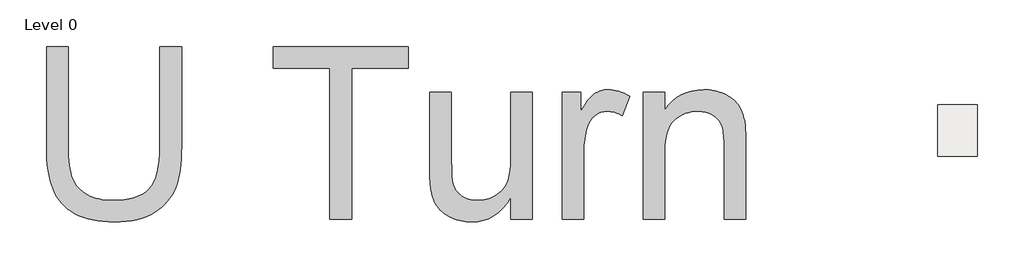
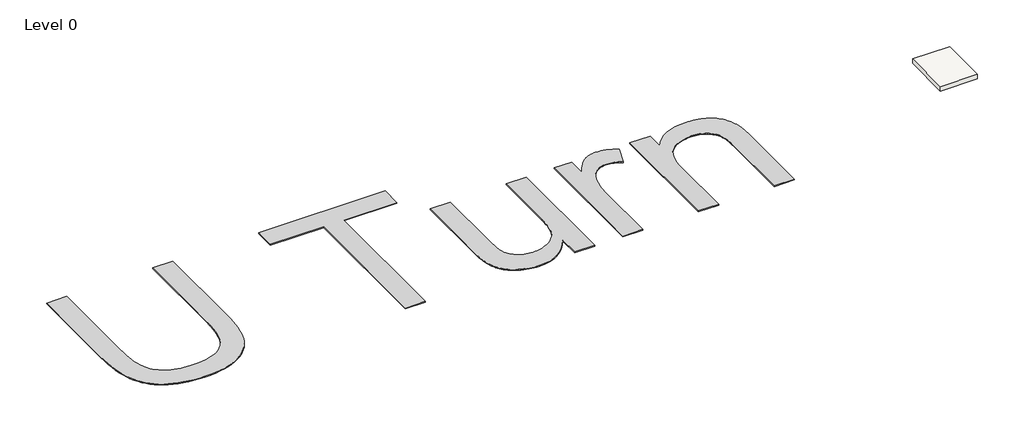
# One storey, incomplete: 1 proxy, 1 slab.
"""IFC4 building model written with IfcOpenShell, lengths in millimetres."""

from ifc_helpers import new_model, si_unit, frame, origin, origin_with_axes, place, context, project, spatial, polyline, outline, extrude, element, save

model = new_model("IFC4")

# Units and contexts
model_context = context("Model", 3, world=origin())
ifc_project = project(units=[si_unit("LENGTHUNIT", "METRE", prefix="MILLI")], contexts=[model_context])

# Site, building, storey
site = spatial("IfcSite", under=ifc_project)
building = spatial("IfcBuilding", under=site)
storey = spatial("IfcBuildingStorey", under=building, Name="Level 0", Elevation=0.0)

# Proxy
placement = place(None, origin())
element("IfcBuildingElementProxy", 1, Name="10 mm", ObjectType="10 mm", at=placement, inside=storey, context=model_context, shape_type="SweptSolid", body=[
    extrude(outline(polyline([(-150288.8911998, 80756.0577544), (-149033.187323, 80756.0577544), (-149033.187323, 74960.690057), (-149038.5139477, 74592.1374436), (-149054.4938219, 74243.0902402), (-149081.1269455, 73913.5484467), (-149118.4133185, 73603.5120631), (-149166.352941, 73312.9810896), (-149224.945813, 73041.9555259), (-149294.1919343, 72790.4353722), (-149374.0913052, 72558.4206285), (-149467.8628929, 72341.3319303), (-149578.725665, 72134.5899132), (-149706.6796214, 71938.1945773), (-149851.7247622, 71752.1459224), (-150013.8610874, 71576.4439487), (-150193.0885969, 71411.0886561), (-150389.4072908, 71256.0800445), (-150602.8171691, 71111.4181142), (-150833.4331948, 70980.6475612), (-151081.3703311, 70867.3130819), (-151346.6285781, 70771.4146764), (-151629.2079356, 70692.9523446), (-151929.1084038, 70631.9260866), (-152246.3299825, 70588.3359023), (-152580.8726719, 70562.1817917), (-152932.7364719, 70553.4637548), (-153275.4607035, 70561.051321), (-153602.205061, 70583.8140194), (-153912.9695443, 70621.7518502), (-154207.7541535, 70674.8648132), (-154486.5588885, 70743.1529086), (-154749.3837493, 70826.6161362), (-154996.2287359, 70925.2544962), (-155227.0938484, 71039.0679884), (-155441.9982473, 71167.2710317), (-155640.961093, 71309.0780445), (-155823.9823856, 71464.4890269), (-155991.0621251, 71633.503979), (-156142.2003114, 71816.1229006), (-156277.3969447, 72012.3457919), (-156396.6520248, 72222.1726528), (-156499.9655518, 72445.6034833), (-156589.3493803, 72686.3554244), (-156666.815365, 72948.1456172), (-156732.3635059, 73230.9740615), (-156785.993803, 73534.8407574), (-156827.7062563, 73859.7457049), (-156857.5008658, 74205.688904), (-156875.3776315, 74572.6703547), (-156881.3365534, 74960.690057), (-156881.3365534, 80756.0577544), (-155625.6326765, 80756.0577544), (-155625.6326765, 75004.8358964), (-155621.7622514, 74690.5841984), (-155610.1509759, 74397.7539623), (-155590.7988501, 74126.3451883), (-155563.705874, 73876.3578762), (-155528.8720476, 73647.7920262), (-155486.2973709, 73440.6476382), (-155435.9818438, 73254.9247122), (-155377.9254665, 73090.6232482), (-155310.442113, 72941.4202744), (-155231.8456575, 72800.9928191), (-155142.1361002, 72669.3408822), (-155041.3134409, 72546.4644637), (-154929.3776796, 72432.3635636), (-154806.3288165, 72327.038182), (-154672.1668513, 72230.4883188), (-154526.8917843, 72142.713974), (-154371.8448517, 72064.53905), (-154208.3672901, 71996.7874492), (-154036.4590995, 71939.4591716), (-153856.1202797, 71892.5542172), (-153667.350831, 71856.0725861), (-153470.1507531, 71830.0142781), (-153264.5200463, 71814.3792933), (-153050.4587103, 71809.1676317), (-152691.0456652, 71819.4759917), (-152358.3807069, 71850.401072), (-152052.4638353, 71901.9428723), (-151773.2950504, 71974.1013928), (-151520.8743522, 72066.8766335), (-151295.2017408, 72180.2685943), (-151096.2772161, 72314.2772753), (-150924.1007782, 72468.9026764), (-150775.2235333, 72652.8436739), (-150646.1965877, 72874.7991444), (-150537.0199414, 73134.7690876), (-150447.6935944, 73432.7535037), (-150378.2175468, 73768.7523926), (-150328.5917985, 74142.7657544), (-150298.8163495, 74554.793589), (-150288.8911998, 75004.8358964), (-150288.8911998, 80756.0577544)])), origin_with_axes(), (0.0, 0.0, 1.0), 50.0),
    extrude(outline(polyline([(-140400.2231695, 70710.4267394), (-140400.2231695, 79500.3538775), (-143696.4458463, 79500.3538775), (-143696.4458463, 80756.0577544), (-135848.2966158, 80756.0577544), (-135848.2966158, 79500.3538775), (-139144.5192926, 79500.3538775), (-139144.5192926, 70710.4267394), (-140400.2231695, 70710.4267394)])), origin_with_axes(), (0.0, 0.0, 1.0), 50.0),
    extrude(outline(polyline([(-129883.7032007, 70710.4267394), (-129883.7032007, 71978.3933495), (-130101.5199987, 71644.4254757), (-130338.0374648, 71354.9866518), (-130593.2555989, 71110.0768777), (-130867.1744011, 70909.6961535), (-131159.7938715, 70753.844479), (-131471.1140099, 70642.5218545), (-131801.1348164, 70575.7282797), (-132149.856291, 70553.4637548), (-132306.723473, 70557.372501), (-132460.9465032, 70569.0987396), (-132612.5253815, 70588.6424706), (-132761.460108, 70616.003694), (-132907.7506826, 70651.1824098), (-133051.3971054, 70694.178618), (-133192.3993764, 70744.9923185), (-133330.7574955, 70803.6235115), (-133463.386619, 70868.1561448), (-133587.201903, 70936.6741664), (-133702.2033475, 71009.1775763), (-133808.3909526, 71085.6663745), (-133905.7647182, 71166.1405609), (-133994.3246443, 71250.6001357), (-134074.070731, 71339.0450987), (-134145.0029782, 71431.47545), (-134209.0565985, 71528.5426472), (-134268.1668045, 71630.8981482), (-134322.3335962, 71738.5419528), (-134371.5569735, 71851.4740611), (-134415.8369366, 71969.6944731), (-134455.1734854, 72093.2031888), (-134489.5666198, 72222.0002081), (-134519.0163399, 72356.0855312), (-134536.2608085, 72454.8005332), (-134551.2060145, 72567.0045417), (-134563.8519581, 72692.6975568), (-134574.1986392, 72831.8795783), (-134587.994214, 73150.7106407), (-134592.592739, 73523.4977292), (-134592.592739, 78087.687016), (-133336.8888621, 78087.687016), (-133336.8888621, 74114.5614681), (-133332.137053, 73678.6213038), (-133317.8816257, 73319.9363585), (-133307.1900552, 73169.564593), (-133294.1225802, 73038.5066322), (-133278.6792006, 72926.7624762), (-133260.8599164, 72834.3321249), (-133227.3481659, 72717.9702834), (-133185.6740337, 72608.0080558), (-133135.8375196, 72504.445442), (-133077.8386238, 72407.2824422), (-133011.6773463, 72316.5190562), (-132937.3536869, 72232.155284), (-132854.8676458, 72154.1911258), (-132764.2192229, 72082.6265814), (-132666.7113337, 72018.5346401), (-132563.6468935, 71962.9882909), (-132455.0259023, 71915.9875339), (-132340.8483602, 71877.5323691), (-132221.114267, 71847.6227965), (-132095.823623, 71826.258816), (-131964.9764279, 71813.4404278), (-131828.5726819, 71809.1676317), (-131689.8696734, 71813.5362304), (-131553.3509642, 71826.6420264), (-131419.0165544, 71848.4850199), (-131286.866444, 71879.0652108), (-131156.9006329, 71918.382599), (-131029.1191211, 71966.4371846), (-130903.5219087, 72023.2289676), (-130780.1089956, 72088.757948), (-130662.2526335, 72161.817013), (-130553.325074, 72241.1990498), (-130453.3263171, 72326.9040583), (-130362.2563628, 72418.9320387), (-130280.115211, 72517.2829908), (-130206.9028619, 72621.9569148), (-130142.6193153, 72732.9538105), (-130087.2645714, 72850.273678), (-130039.5548751, 72977.5570162), (-129998.2064717, 73118.4443241), (-129963.2193611, 73272.9356015), (-129934.5935434, 73441.0308486), (-129912.3290185, 73622.7300653), (-129896.4257864, 73818.0332516), (-129886.8838471, 74026.9404075), (-129883.7032007, 74249.451533), (-129883.7032007, 78087.687016), (-128627.9993238, 78087.687016), (-128627.9993238, 70710.4267394), (-129883.7032007, 70710.4267394)])), origin_with_axes(), (0.0, 0.0, 1.0), 50.0),
    extrude(outline(polyline([(-126901.4064931, 70710.4267394), (-126901.4064931, 78087.687016), (-125802.6656009, 78087.687016), (-125802.6656009, 76996.3037637), (-125698.2024427, 77178.8652038), (-125595.7319786, 77345.1785224), (-125495.2542087, 77495.2437196), (-125396.7691329, 77629.0607954), (-125300.2767512, 77746.6297497), (-125205.7770637, 77847.9505825), (-125113.2700703, 77933.0232939), (-125022.7557711, 78001.8478838), (-124932.1648298, 78058.7546299), (-124839.4279102, 78108.0738099), (-124744.5450123, 78149.8054237), (-124647.516136, 78183.9494714), (-124548.3412815, 78210.505953), (-124447.0204487, 78229.4748683), (-124343.5536375, 78240.8562176), (-124237.9408481, 78244.6500006), (-124082.5107051, 78238.5952761), (-123926.4674255, 78220.4311026), (-123769.8110092, 78190.1574801), (-123612.5414563, 78147.7744086), (-123454.6587667, 78093.281888), (-123296.1629404, 78026.6799185), (-123137.0539775, 77947.9684999), (-122977.3318779, 77857.1476324), (-123396.7173524, 76731.4287271), (-123507.081951, 76791.784367), (-123617.4465495, 76844.0925882), (-123727.8111481, 76888.3533907), (-123838.1757466, 76924.5667746), (-123948.5403452, 76952.7327399), (-124058.9049437, 76972.8512865), (-124169.2695423, 76984.9224144), (-124279.6341408, 76988.9461238), (-124377.1037091, 76985.0756986), (-124472.0824096, 76973.4644231), (-124564.5702424, 76954.1122973), (-124654.5672076, 76927.0193212), (-124742.0733051, 76892.1854948), (-124827.0885349, 76849.6108181), (-124909.6128971, 76799.295291), (-124989.6463915, 76741.2389137), (-125065.6561767, 76676.3230699), (-125136.1094109, 76605.4291438), (-125201.0060941, 76528.5571352), (-125260.3462263, 76445.7070442), (-125314.1298076, 76356.8788708), (-125362.3568379, 76262.072615), (-125405.0273172, 76161.2882767), (-125442.1412456, 76054.525856), (-125489.8509419, 75885.1468541), (-125531.1993453, 75711.7824638), (-125566.1864559, 75534.4326853), (-125594.8122736, 75353.0975185), (-125617.0767985, 75167.7769635), (-125632.9800306, 74978.4710201), (-125642.5219699, 74785.1796885), (-125645.7026163, 74587.9029686), (-125645.7026163, 70710.4267394), (-126901.4064931, 70710.4267394)])), origin_with_axes(), (0.0, 0.0, 1.0), 50.0),
    extrude(outline(polyline([(-122192.5169549, 70710.4267394), (-122192.5169549, 78087.687016), (-120936.813078, 78087.687016), (-120936.813078, 77057.6174295), (-120729.6495295, 77335.8281884), (-120500.5663454, 77576.9441794), (-120249.5635258, 77780.9654025), (-119976.6410706, 77947.8918579), (-119681.7989799, 78077.7235453), (-119365.0372536, 78170.4604649), (-119026.3558918, 78226.1026167), (-118665.7548945, 78244.6500006), (-118506.1285975, 78240.9136991), (-118349.759589, 78229.7047946), (-118196.647869, 78211.023287), (-118046.7934376, 78184.8691764), (-117900.1962946, 78151.2424628), (-117756.8564401, 78110.1431461), (-117616.7738741, 78061.5712265), (-117479.9485967, 78005.5267038), (-117349.005599, 77943.408296), (-117226.5698725, 77876.6147213), (-117112.6414171, 77805.1459795), (-117007.2202329, 77729.0020707), (-116910.3063198, 77648.1829949), (-116821.8996778, 77562.6887521), (-116742.000307, 77472.5193422), (-116670.6082073, 77377.6747653), (-116605.9797714, 77278.212503), (-116546.3713918, 77174.1900367), (-116491.7830687, 77065.6073666), (-116442.2148019, 76952.4644926), (-116397.6665916, 76834.7614146), (-116358.1384376, 76712.4981328), (-116323.6303401, 76585.6746471), (-116294.1422989, 76454.2909574), (-116278.6222772, 76359.6763068), (-116265.1715918, 76248.7368926), (-116253.7902425, 76121.4727149), (-116244.4782295, 75977.8837737), (-116232.0622122, 75641.7316006), (-116227.9235397, 75240.2803734), (-116227.9235397, 70710.4267394), (-117483.6274166, 70710.4267394), (-117483.6274166, 75071.0546556), (-117485.888358, 75250.9719438), (-117492.6711823, 75419.1629935), (-117503.9758895, 75575.6278046), (-117519.8024795, 75720.3663771), (-117540.1509523, 75853.3787109), (-117565.021308, 75974.6648062), (-117594.4135466, 76084.2246629), (-117628.3276681, 76182.058281), (-117667.9707851, 76271.7103568), (-117714.5500107, 76356.7255866), (-117768.0653447, 76437.1039705), (-117828.5167871, 76512.8455083), (-117895.904338, 76583.9502002), (-117970.2279973, 76650.4180461), (-118051.4877651, 76712.249046), (-118139.6836413, 76769.4432), (-118233.3594265, 76820.8891977), (-118331.0589209, 76865.4757291), (-118432.7821247, 76903.2027942), (-118538.5290378, 76934.0703928), (-118648.2996602, 76958.0785251), (-118762.0939919, 76975.227191), (-118879.912033, 76985.5163906), (-119001.7537834, 76988.9461238), (-119195.7923753, 76981.2435945), (-119383.048143, 76958.1360067), (-119563.5210863, 76919.6233603), (-119737.2112054, 76865.7056554), (-119904.1185002, 76796.3828919), (-120064.2429707, 76711.6550699), (-120217.5846169, 76611.5221893), (-120364.1434389, 76495.9842502), (-120498.3628855, 76358.909886), (-120614.686406, 76194.16773), (-120713.1140002, 76001.7577823), (-120793.6456682, 75781.6800429), (-120856.28141, 75533.9345118), (-120901.0212256, 75258.5211889), (-120927.8651149, 74955.4400744), (-120936.813078, 74624.6911681), (-120936.813078, 70710.4267394), (-122192.5169549, 70710.4267394)])), origin_with_axes(), (0.0, 0.0, 1.0), 50.0),
])

# Slab
element("IfcSlab", 2, ObjectType="FL_300 mm_Generic", at=placement, inside=storey, context=model_context, shape_type="SweptSolid", body=[
    extrude(outline(polyline([(-102747.8885325, 77369.9753886), (-102747.8885325, 74369.9753886), (-105047.8885325, 74369.9753886), (-105047.8885325, 77369.9753886), (-102747.8885325, 77369.9753886)])), frame((0.0, 0.0, -300.0), z_axis=(0.0, 0.0, 1.0), x_axis=(1.0, 0.0, 0.0)), (0.0, 0.0, 1.0), 300.0),
])

save(model, "model.ifc")
